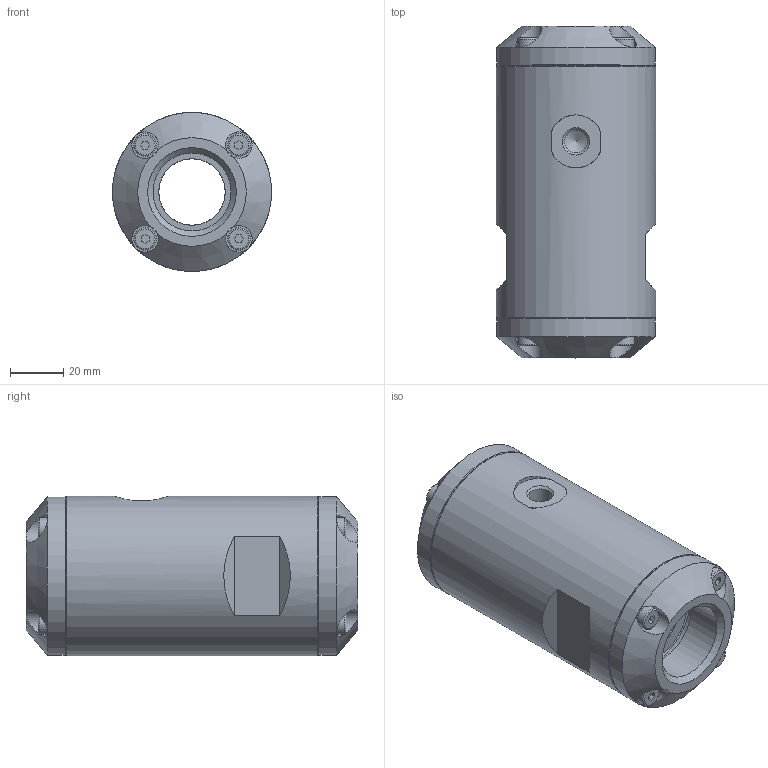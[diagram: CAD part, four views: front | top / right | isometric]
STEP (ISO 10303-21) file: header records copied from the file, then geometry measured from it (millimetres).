
FILE_DESCRIPTION(/* description */ (''),/* implementation_level */ '2;1');
FILE_NAME(/* name */ 'Serie80_QV25_assembly_VEREINFACHT.stp',/* time_stamp */ '2013-10-21T17:17:38+02:00',/* author */ (''),/* organization */ (''),/* preprocessor_version */ 'ST-DEVELOPER v11',/* originating_system */ 'SIEMENS PLM Software NX 7.5',/* authorisation */ '');
FILE_SCHEMA (('AUTOMOTIVE_DESIGN { 1 0 10303 214 1 1 1 1 }'));
Length unit declared in the file: millimetre
Products named in the file (1): memdFD780whs
Bounding box: 60 x 125 x 60 mm (x, y, z)
Volume: 262890.2 mm3; surface area: 64857.5 mm2
Topology: 27 solids, 27 shells, 308 faces, 656 edges, 416 vertices
Faces by surface type: plane 145, cylinder 97, cone 36, torus 30
Full cylindrical faces by diameter (mm): 4.13 x16, 4.2 x8, 5 x24, 5.2 x8, 5.4 x8, 8.5 x8, 8.611 x1, 10 x8, 25 x3, 29.37 x2, 34.9 x2, 55.8 x2, 56 x2, 60 x3
Entity records: 7693 total; most frequent: CARTESIAN_POINT 1574, DIRECTION 1302, ORIENTED_EDGE 894, AXIS2_PLACEMENT_3D 574, EDGE_LOOP 506, EDGE_CURVE 447, FACE_BOUND 411, VERTEX_POINT 362
